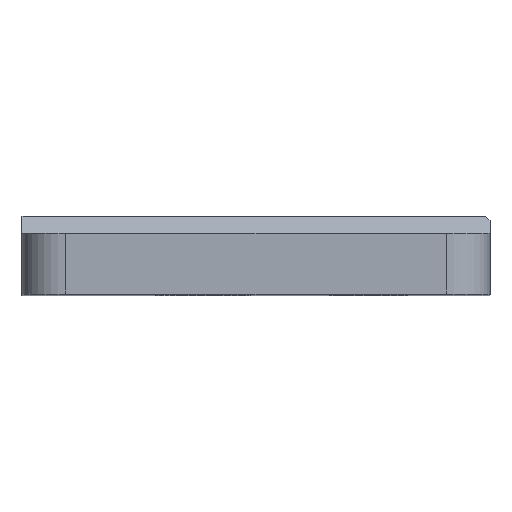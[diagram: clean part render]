
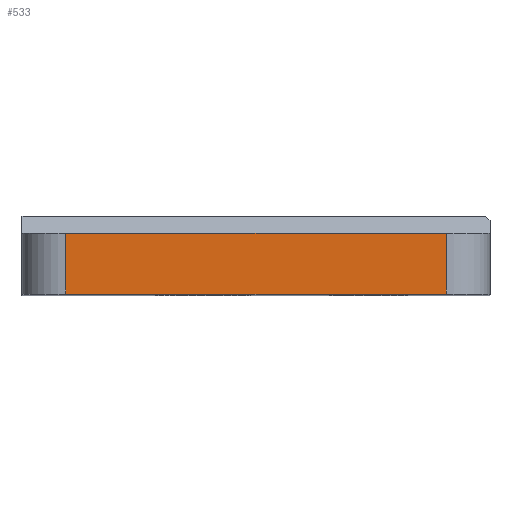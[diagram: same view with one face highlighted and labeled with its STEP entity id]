
A CAD part, top view. The second image highlights one B-rep face of the part: STEP entity #533.
In plain terms, the highlighted planar face has unit normal (0, 0, 1).
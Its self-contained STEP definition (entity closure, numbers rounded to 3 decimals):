
#60 = CARTESIAN_POINT ( 'NONE',  ( -62.5, 0., 119. ) ) ;
#73 = DIRECTION ( 'NONE',  ( 0., -1., 0. ) ) ;
#78 = VECTOR ( 'NONE', #3340, 1000. ) ;
#206 = CARTESIAN_POINT ( 'NONE',  ( -62.5, 18., 119. ) ) ;
#270 = VECTOR ( 'NONE', #3446, 1000. ) ;
#299 = EDGE_CURVE ( 'NONE', #448, #2686, #2967, .T. ) ;
#380 = CARTESIAN_POINT ( 'NONE',  ( -52.5, 18., 119. ) ) ;
#403 = ORIENTED_EDGE ( 'NONE', *, *, #299, .T. ) ;
#448 = VERTEX_POINT ( 'NONE', #1098 ) ;
#533 = ADVANCED_FACE ( 'NONE', ( #3252 ), #1699, .F. ) ;
#797 = ORIENTED_EDGE ( 'NONE', *, *, #2763, .F. ) ;
#833 = VECTOR ( 'NONE', #1969, 1000. ) ;
#882 = LINE ( 'NONE', #60, #78 ) ;
#925 = LINE ( 'NONE', #3445, #833 ) ;
#1064 = LINE ( 'NONE', #1357, #270 ) ;
#1098 = CARTESIAN_POINT ( 'NONE',  ( -52.5, 14., 119. ) ) ;
#1183 = VECTOR ( 'NONE', #73, 1000. ) ;
#1357 = CARTESIAN_POINT ( 'NONE',  ( 45., 14., 119. ) ) ;
#1522 = DIRECTION ( 'NONE',  ( -1., 0., 0. ) ) ;
#1699 = PLANE ( 'NONE',  #2708 ) ;
#1747 = ORIENTED_EDGE ( 'NONE', *, *, #2828, .T. ) ;
#1836 = EDGE_LOOP ( 'NONE', ( #1747, #3830, #797, #403 ) ) ;
#1950 = VERTEX_POINT ( 'NONE', #3857 ) ;
#1969 = DIRECTION ( 'NONE',  ( 0., 1., 0. ) ) ;
#2449 = VERTEX_POINT ( 'NONE', #3082 ) ;
#2686 = VERTEX_POINT ( 'NONE', #3708 ) ;
#2708 = AXIS2_PLACEMENT_3D ( 'NONE', #206, #3319, #1522 ) ;
#2763 = EDGE_CURVE ( 'NONE', #448, #2449, #1064, .T. ) ;
#2828 = EDGE_CURVE ( 'NONE', #2686, #1950, #882, .T. ) ;
#2967 = LINE ( 'NONE', #380, #1183 ) ;
#3025 = EDGE_CURVE ( 'NONE', #1950, #2449, #925, .T. ) ;
#3082 = CARTESIAN_POINT ( 'NONE',  ( 35., 14., 119. ) ) ;
#3252 = FACE_OUTER_BOUND ( 'NONE', #1836, .T. ) ;
#3319 = DIRECTION ( 'NONE',  ( 0., 0., -1. ) ) ;
#3340 = DIRECTION ( 'NONE',  ( 1., 0., 0. ) ) ;
#3445 = CARTESIAN_POINT ( 'NONE',  ( 35., 18., 119. ) ) ;
#3446 = DIRECTION ( 'NONE',  ( 1., 0., 0. ) ) ;
#3708 = CARTESIAN_POINT ( 'NONE',  ( -52.5, 0., 119. ) ) ;
#3830 = ORIENTED_EDGE ( 'NONE', *, *, #3025, .T. ) ;
#3857 = CARTESIAN_POINT ( 'NONE',  ( 35., 0., 119. ) ) ;
